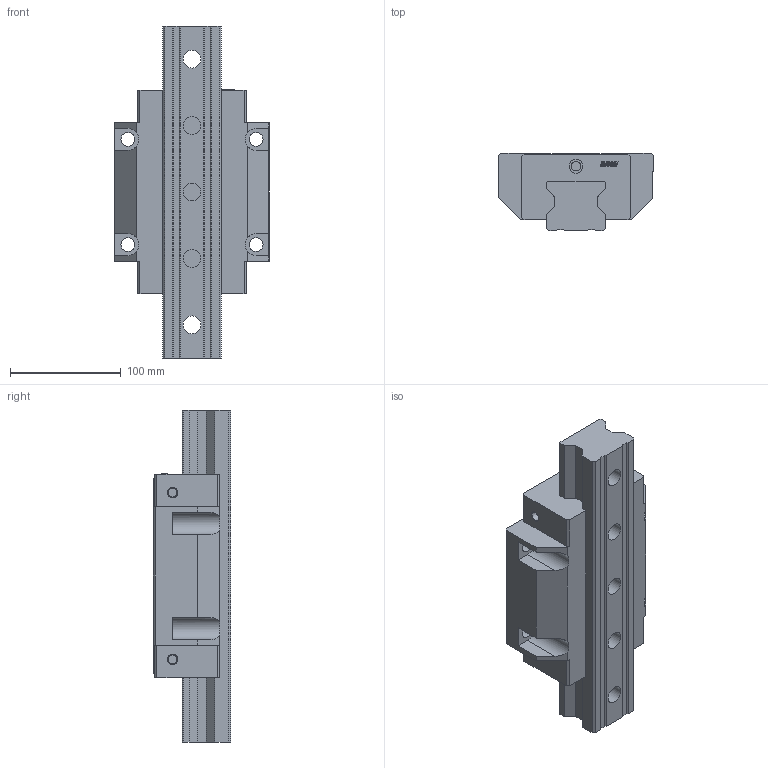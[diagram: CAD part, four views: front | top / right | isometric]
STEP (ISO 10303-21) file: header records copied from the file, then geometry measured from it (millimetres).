
FILE_DESCRIPTION(/* description */ (''),/* implementation_level */ '2;1');
FILE_NAME(/* name */ 'SRW55CC.stp',/* time_stamp */ '2022-01-22T15:26:51+08:00',/* author */ (''),/* organization */ (''),/* preprocessor_version */ 'ST-DEVELOPER v15',/* originating_system */ 'SIEMENS PLM Software NX 8.5',/* authorisation */ '');
FILE_SCHEMA (('CONFIG_CONTROL_DESIGN'));
Length unit declared in the file: millimetre
Products named in the file (1): _model1
Bounding box: 140 x 70 x 300 mm (x, y, z)
Volume: 1526762.3 mm3; surface area: 179905.7 mm2
Topology: 2 solids, 2 shells, 259 faces, 744 edges, 509 vertices
Faces by surface type: plane 145, extrusion 69, cylinder 26, cone 19
Full cylindrical faces by diameter (mm): 8.5 x2, 12.5 x8, 16 x5, 20 x2, 23 x5
Entity records: 8985 total; most frequent: CARTESIAN_POINT 2393, ORIENTED_EDGE 1390, DIRECTION 1137, EDGE_CURVE 695, VERTEX_POINT 501, VECTOR 489, LINE 420, EDGE_LOOP 342
